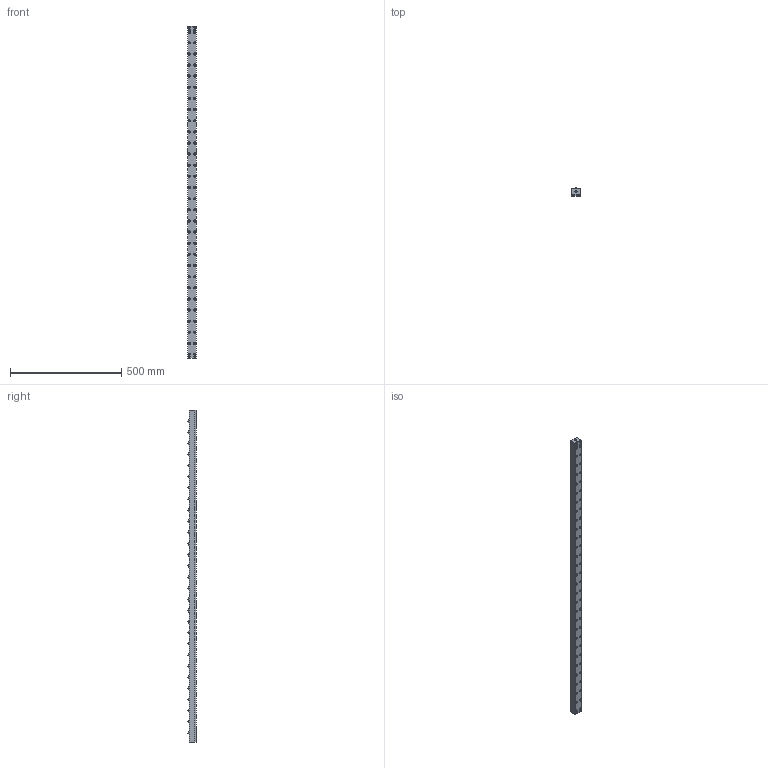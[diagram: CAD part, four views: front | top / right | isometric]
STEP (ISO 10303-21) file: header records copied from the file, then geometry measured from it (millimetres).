
FILE_DESCRIPTION (( 'STEP AP203' ), '1' );
FILE_NAME ('PVL30SL-29-P50.STEP', '2016-02-18T09:19:57', ( '' ), ( '' ), 'SwSTEP 2.0', 'SolidWorks 2013', '' );
FILE_SCHEMA (( 'CONFIG_CONTROL_DESIGN' ));
Length unit declared in the file: millimetre
Products named in the file (1): PVL30SL-29-P50
Bounding box: 38 x 36 x 1490 mm (x, y, z)
Volume: 1763952.1 mm3; surface area: 480908.4 mm2
Topology: 9 solids, 9 shells, 1135 faces, 2568 edges, 1710 vertices
Faces by surface type: plane 639, cylinder 398, sphere 58, cone 40
Entity records: 32085 total; most frequent: DIRECTION 5790, CARTESIAN_POINT 5400, ORIENTED_EDGE 5108, EDGE_CURVE 2554, AXIS2_PLACEMENT_3D 2100, VERTEX_POINT 1710, VECTOR 1590, LINE 1590
